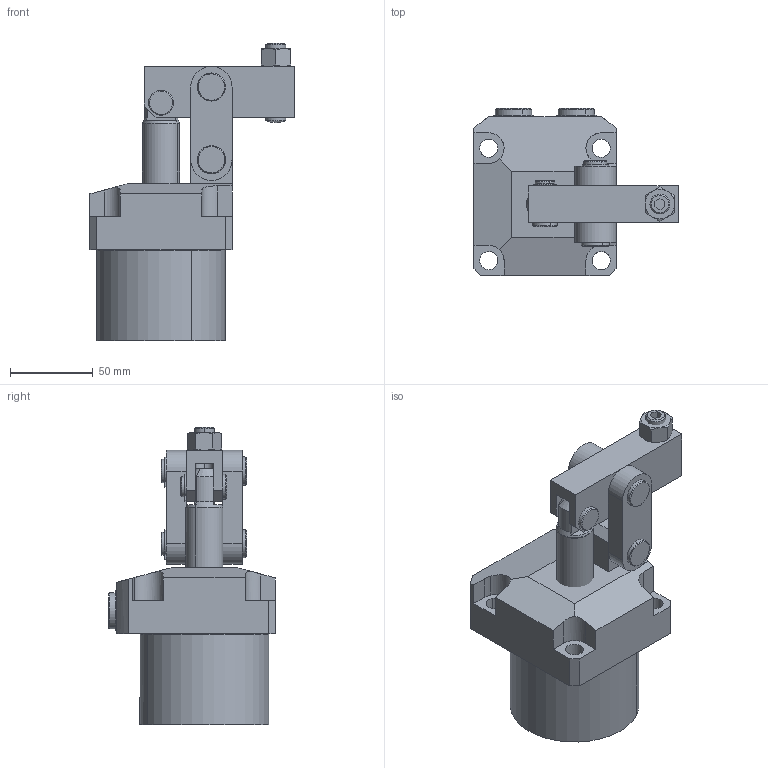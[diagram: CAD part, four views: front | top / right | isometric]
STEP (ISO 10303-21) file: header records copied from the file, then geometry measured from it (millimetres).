
FILE_DESCRIPTION(('CATIA V5 STEP Exchange'),'2;1');
FILE_NAME('\\Kjf-102\kjf_tc\Hydraulic_Clamp\Standard\HINGE_CLAMP\New_Hinge-Clamp\HGC-5636G\배포도면\CHGC-5678G-LH-L.stp','2017-09-15T04:36:18+00:00',('none'),('none'),'CATIA Version 5 Release 19 SP 6 (IN-10)','CATIA V5 STEP AP214','none');
FILE_SCHEMA(('AUTOMOTIVE_DESIGN { 1 0 10303 214 1 1 1 1 }'));
Length unit declared in the file: millimetre
Products named in the file (1): CHGC-5678G-LH-L
Bounding box: 123.5 x 101 x 180 mm (x, y, z)
Volume: 575661.7 mm3; surface area: 108506.3 mm2
Topology: 15 solids, 16 shells, 370 faces, 896 edges, 578 vertices
Faces by surface type: cylinder 152, plane 143, cone 65, torus 6, sphere 4
Entity records: 11220 total; most frequent: CARTESIAN_POINT 2668, ORIENTED_EDGE 1784, DIRECTION 1495, EDGE_CURVE 892, AXIS2_PLACEMENT_3D 705, VERTEX_POINT 578, VECTOR 449, LINE 449
